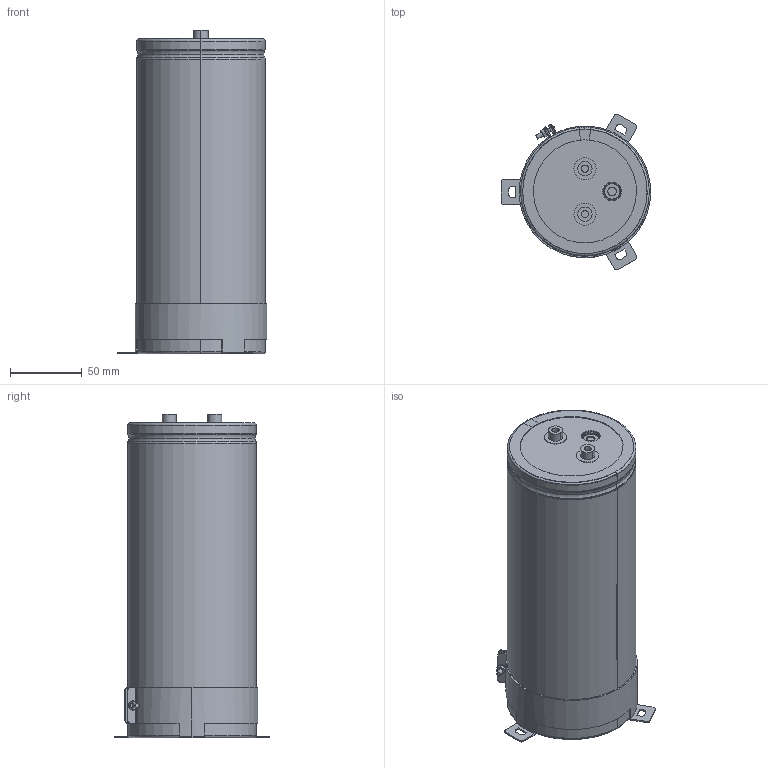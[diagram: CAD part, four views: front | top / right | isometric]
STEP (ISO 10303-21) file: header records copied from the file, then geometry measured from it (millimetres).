
FILE_DESCRIPTION(('STEP AP214'),'1');
FILE_NAME('90x220_Screw.stp','2022-03-14T08:43:07',(' '),(' '),'Spatial InterOp 3D',' ',' ');
FILE_SCHEMA(('AUTOMOTIVE_DESIGN { 1 0 10303 214 1 1 1 1 }'));
Length unit declared in the file: metre
Products named in the file (10): 90x220_Screw; Component1; Component2; Component3; Component4; Component5; Component6; Component7; Component8; Component9
Assembly tree (9 placements, depth 2):
  90x220_Screw
    Component1
    Component2
    Component3
    Component4
    Component5
    Component6
    Component7
    Component8
    Component9
Bounding box: 104.5 x 108.86 x 226 mm (x, y, z)
Volume: 1402139.9 mm3; surface area: 225723.8 mm2
Topology: 9 solids, 9 shells, 352 faces, 873 edges, 551 vertices
Faces by surface type: plane 112, cylinder 110, torus 90, cone 38, sphere 2
Entity records: 11474 total; most frequent: DIRECTION 2126, CARTESIAN_POINT 1918, ORIENTED_EDGE 1746, AXIS2_PLACEMENT_3D 919, EDGE_CURVE 873, VERTEX_POINT 551, CIRCLE 511, EDGE_LOOP 380
